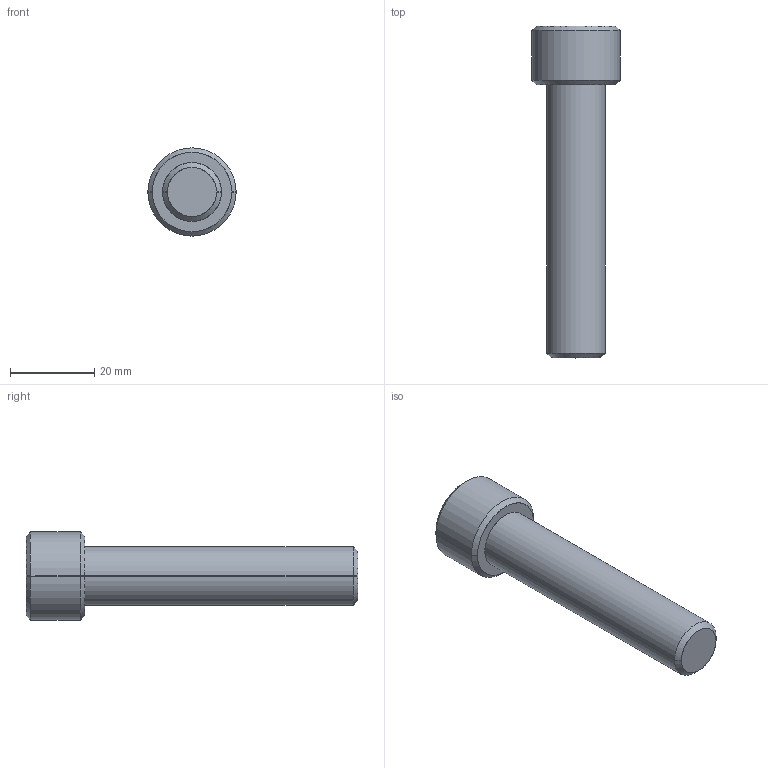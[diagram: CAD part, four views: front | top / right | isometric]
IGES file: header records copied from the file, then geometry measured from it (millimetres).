
Start section: SolidWorks IGES file using analytic representation for surfaces
Global section: file name: D:\Cleonir_arquivos\MT_15_07\Parafuso Allen Cabeça Cilindrica\CLM14065.igs; native system: SolidWorks 2013; preprocessor: SolidWorks 2013; author: Cleonir; date: 130730.130153; units: millimetre
Bounding box: 21 x 79 x 21 mm (x, y, z)
Surface area: 4775.5 mm2 (no closed solid volume)
Topology: 0 solids, 0 shells, 286 faces, 2413 edges, 2413 vertices
Faces by surface type: bspline 268, revolution 18
